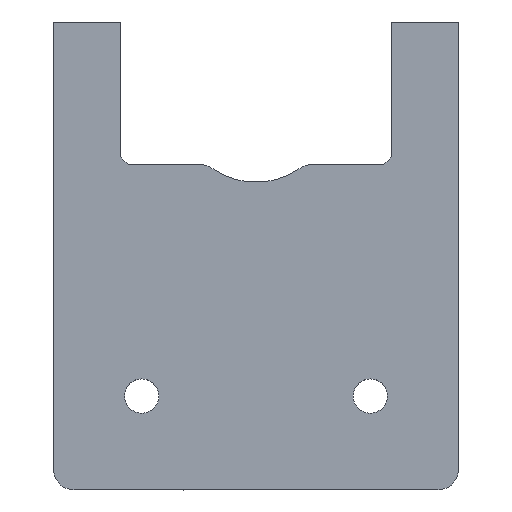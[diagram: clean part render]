
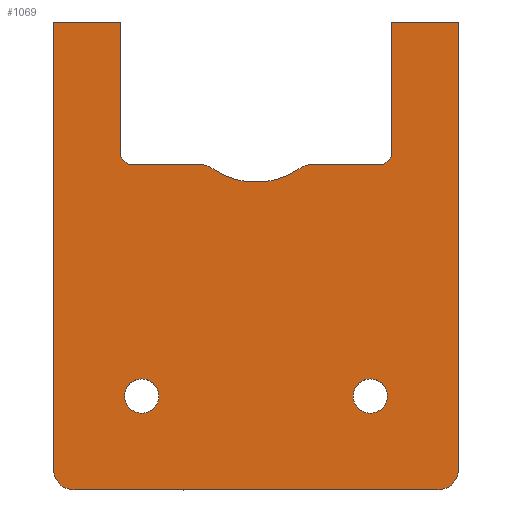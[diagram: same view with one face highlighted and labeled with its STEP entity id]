
A CAD part, top view. The second image highlights one B-rep face of the part: STEP entity #1069.
In plain terms, the highlighted planar face has unit normal (0, 0, 1).
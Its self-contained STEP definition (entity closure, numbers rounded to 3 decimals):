
#52=FACE_BOUND('',#182,.T.);
#53=FACE_BOUND('',#183,.T.);
#77=PLANE('',#1167);
#119=FACE_OUTER_BOUND('',#181,.T.);
#181=EDGE_LOOP('',(#869,#870,#871,#872,#873,#874,#875,#876,#877,#878,#879,
#880,#881,#882,#883,#884));
#182=EDGE_LOOP('',(#885));
#183=EDGE_LOOP('',(#886));
#237=LINE('',#1609,#334);
#244=LINE('',#1624,#341);
#248=LINE('',#1638,#345);
#259=LINE('',#1661,#356);
#262=LINE('',#1667,#359);
#265=LINE('',#1673,#362);
#280=LINE('',#1708,#377);
#282=LINE('',#1712,#379);
#287=LINE('',#1728,#384);
#289=LINE('',#1732,#386);
#290=LINE('',#1734,#387);
#334=VECTOR('',#1278,10.);
#341=VECTOR('',#1291,10.);
#345=VECTOR('',#1305,10.);
#356=VECTOR('',#1324,10.);
#359=VECTOR('',#1329,10.);
#362=VECTOR('',#1336,10.);
#377=VECTOR('',#1375,10.);
#379=VECTOR('',#1379,10.);
#384=VECTOR('',#1398,10.);
#386=VECTOR('',#1402,10.);
#387=VECTOR('',#1405,10.);
#410=CIRCLE('',#1118,2.);
#424=CIRCLE('',#1136,2.);
#428=CIRCLE('',#1159,2.7);
#429=CIRCLE('',#1161,7.32);
#430=CIRCLE('',#1163,2.7);
#431=CIRCLE('',#1168,1.65);
#432=CIRCLE('',#1169,1.65);
#455=VERTEX_POINT('',#1545);
#456=VERTEX_POINT('',#1546);
#485=VERTEX_POINT('',#1608);
#490=VERTEX_POINT('',#1622);
#493=VERTEX_POINT('',#1630);
#495=VERTEX_POINT('',#1636);
#503=VERTEX_POINT('',#1659);
#505=VERTEX_POINT('',#1665);
#506=VERTEX_POINT('',#1672);
#514=VERTEX_POINT('',#1706);
#515=VERTEX_POINT('',#1710);
#516=VERTEX_POINT('',#1714);
#517=VERTEX_POINT('',#1718);
#518=VERTEX_POINT('',#1722);
#519=VERTEX_POINT('',#1726);
#520=VERTEX_POINT('',#1730);
#521=VERTEX_POINT('',#1736);
#522=VERTEX_POINT('',#1738);
#555=EDGE_CURVE('',#455,#456,#410,.T.);
#586=EDGE_CURVE('',#485,#456,#237,.F.);
#595=EDGE_CURVE('',#455,#490,#244,.T.);
#598=EDGE_CURVE('',#493,#490,#424,.T.);
#602=EDGE_CURVE('',#493,#495,#248,.F.);
#613=EDGE_CURVE('',#495,#503,#259,.T.);
#616=EDGE_CURVE('',#503,#505,#262,.T.);
#619=EDGE_CURVE('',#506,#485,#265,.T.);
#637=EDGE_CURVE('',#505,#514,#280,.T.);
#639=EDGE_CURVE('',#514,#515,#282,.T.);
#641=EDGE_CURVE('',#515,#516,#428,.T.);
#643=EDGE_CURVE('',#516,#517,#429,.T.);
#645=EDGE_CURVE('',#517,#518,#430,.T.);
#647=EDGE_CURVE('',#518,#519,#287,.T.);
#649=EDGE_CURVE('',#519,#520,#289,.T.);
#650=EDGE_CURVE('',#520,#506,#290,.T.);
#651=EDGE_CURVE('',#521,#521,#431,.T.);
#652=EDGE_CURVE('',#522,#522,#432,.T.);
#869=ORIENTED_EDGE('',*,*,#555,.F.);
#870=ORIENTED_EDGE('',*,*,#595,.T.);
#871=ORIENTED_EDGE('',*,*,#598,.F.);
#872=ORIENTED_EDGE('',*,*,#602,.T.);
#873=ORIENTED_EDGE('',*,*,#613,.T.);
#874=ORIENTED_EDGE('',*,*,#616,.T.);
#875=ORIENTED_EDGE('',*,*,#637,.T.);
#876=ORIENTED_EDGE('',*,*,#639,.T.);
#877=ORIENTED_EDGE('',*,*,#641,.T.);
#878=ORIENTED_EDGE('',*,*,#643,.T.);
#879=ORIENTED_EDGE('',*,*,#645,.T.);
#880=ORIENTED_EDGE('',*,*,#647,.T.);
#881=ORIENTED_EDGE('',*,*,#649,.T.);
#882=ORIENTED_EDGE('',*,*,#650,.T.);
#883=ORIENTED_EDGE('',*,*,#619,.T.);
#884=ORIENTED_EDGE('',*,*,#586,.T.);
#885=ORIENTED_EDGE('',*,*,#651,.T.);
#886=ORIENTED_EDGE('',*,*,#652,.T.);
#1069=ADVANCED_FACE('',(#119,#52,#53),#77,.T.);
#1118=AXIS2_PLACEMENT_3D('',#1547,#1233,#1234);
#1136=AXIS2_PLACEMENT_3D('',#1631,#1298,#1299);
#1159=AXIS2_PLACEMENT_3D('',#1716,#1383,#1384);
#1161=AXIS2_PLACEMENT_3D('',#1720,#1388,#1389);
#1163=AXIS2_PLACEMENT_3D('',#1724,#1393,#1394);
#1167=AXIS2_PLACEMENT_3D('',#1735,#1406,#1407);
#1168=AXIS2_PLACEMENT_3D('',#1737,#1408,#1409);
#1169=AXIS2_PLACEMENT_3D('',#1739,#1410,#1411);
#1233=DIRECTION('center_axis',(0.,0.,
-1.));
#1234=DIRECTION('ref_axis',(-0.707,-0.707,0.));
#1278=DIRECTION('',(0.,1.,0.));
#1291=DIRECTION('',(1.,0.,0.));
#1298=DIRECTION('center_axis',(0.,0.,
-1.));
#1299=DIRECTION('ref_axis',(0.707,-0.707,0.));
#1305=DIRECTION('',(0.,-1.,0.));
#1324=DIRECTION('',(-1.,0.,0.));
#1329=DIRECTION('',(0.,-1.,0.));
#1336=DIRECTION('',(-1.,0.,0.));
#1375=DIRECTION('',(-0.707,-0.707,0.));
#1379=DIRECTION('',(-1.,0.,0.));
#1383=DIRECTION('center_axis',(0.,0.,
1.));
#1384=DIRECTION('ref_axis',(0.,1.,0.));
#1388=DIRECTION('center_axis',(0.,0.,
-1.));
#1389=DIRECTION('ref_axis',(-0.564,-0.826,0.));
#1393=DIRECTION('center_axis',(0.,0.,
1.));
#1394=DIRECTION('ref_axis',(0.564,0.826,0.));
#1398=DIRECTION('',(-1.,0.,0.));
#1402=DIRECTION('',(-0.707,0.707,0.));
#1405=DIRECTION('',(0.,1.,0.));
#1406=DIRECTION('center_axis',(0.,0.,
1.));
#1407=DIRECTION('ref_axis',(-1.,0.,0.));
#1408=DIRECTION('center_axis',(0.,0.,
-1.));
#1409=DIRECTION('ref_axis',(-1.,0.,0.));
#1410=DIRECTION('center_axis',(0.,0.,
-1.));
#1411=DIRECTION('ref_axis',(-1.,0.,0.));
#1545=CARTESIAN_POINT('',(-37.6,-54.717,0.35));
#1546=CARTESIAN_POINT('',(-39.6,-52.717,0.35));
#1547=CARTESIAN_POINT('Origin',(-37.6,-52.717,0.35));
#1608=CARTESIAN_POINT('',(-39.6,-9.689,0.35));
#1609=CARTESIAN_POINT('',(-39.6,-42.46,0.35));
#1622=CARTESIAN_POINT('',(-2.6,-54.717,0.35));
#1624=CARTESIAN_POINT('',(-33.6,-54.717,0.35));
#1630=CARTESIAN_POINT('',(-0.6,-52.717,0.35));
#1631=CARTESIAN_POINT('Origin',(-2.6,-52.717,0.35));
#1636=CARTESIAN_POINT('',(-0.6,-9.689,0.35));
#1638=CARTESIAN_POINT('',(-0.6,-20.946,0.35));
#1659=CARTESIAN_POINT('',(-7.1,-9.689,0.35));
#1661=CARTESIAN_POINT('',(-9.812,-9.689,0.35));
#1665=CARTESIAN_POINT('',(-7.1,-22.678,0.35));
#1667=CARTESIAN_POINT('',(-7.1,-20.946,0.35));
#1672=CARTESIAN_POINT('',(-33.1,-9.689,0.35));
#1673=CARTESIAN_POINT('',(-9.812,-9.689,0.35));
#1706=CARTESIAN_POINT('',(-7.786,-23.364,0.35));
#1708=CARTESIAN_POINT('',(-12.731,-28.31,0.35));
#1710=CARTESIAN_POINT('',(-14.45,-23.364,0.35));
#1712=CARTESIAN_POINT('',(-13.943,-23.364,0.35));
#1714=CARTESIAN_POINT('',(-15.972,-23.834,0.35));
#1716=CARTESIAN_POINT('Origin',(-14.45,-26.064,0.35));
#1718=CARTESIAN_POINT('',(-24.228,-23.834,0.35));
#1720=CARTESIAN_POINT('Origin',(-20.1,-17.789,0.35));
#1722=CARTESIAN_POINT('',(-25.75,-23.364,0.35));
#1724=CARTESIAN_POINT('Origin',(-25.75,-26.064,0.35));
#1726=CARTESIAN_POINT('',(-32.414,-23.364,0.35));
#1728=CARTESIAN_POINT('',(-22.925,-23.364,0.35));
#1730=CARTESIAN_POINT('',(-33.1,-22.678,0.35));
#1732=CARTESIAN_POINT('',(-27.126,-28.652,0.35));
#1734=CARTESIAN_POINT('',(-33.1,-27.441,0.35));
#1735=CARTESIAN_POINT('Origin',(-20.1,-32.203,0.35));
#1736=CARTESIAN_POINT('',(-7.45,-45.689,0.35));
#1737=CARTESIAN_POINT('Origin',(-9.1,-45.689,0.35));
#1738=CARTESIAN_POINT('',(-29.45,-45.689,0.35));
#1739=CARTESIAN_POINT('Origin',(-31.1,-45.689,0.35));
